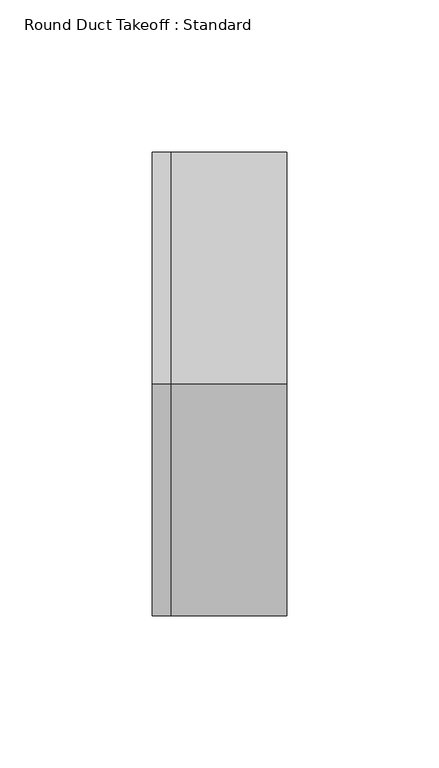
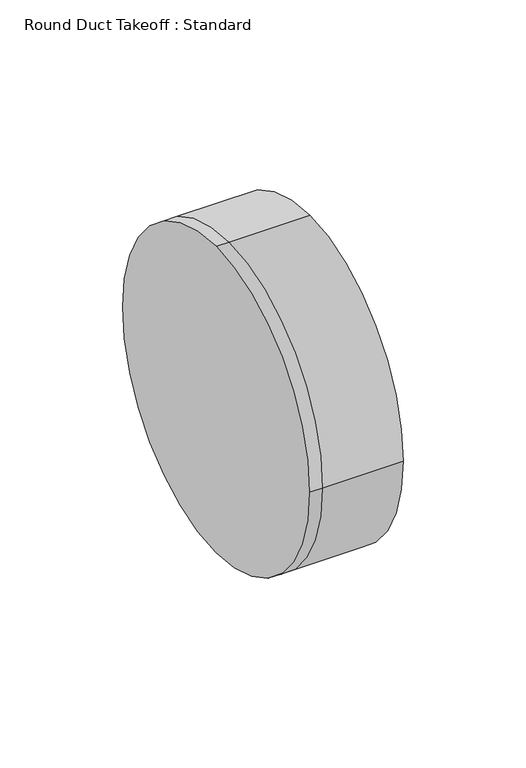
"""IFC4 building model written with IfcOpenShell, lengths in millimetres: duct fitting geometry, Round Duct Takeoff : Standard."""

from ifc_helpers import new_model, si_unit, frame, origin, place, context, project, spatial, circle_curve, source, transform, mapped, element, save
from ifc_brep_helpers import plane_surface, cylinder_surface, advanced_brep


def round_duct_takeoff_standard_ec3f8b96(model_context):
    return source(origin(), model_context, "Body", "AdvancedBrep", [
        advanced_brep(
        [(-6.096, 0.0, 76.2), (-6.096, 76.2, 0.0), (-6.096, 0.0, -76.2), (-6.096, -76.2, 0.0), (0.0, 0.0, 76.2), (0.0, 76.2, 0.0), (0.0, 0.0, -76.2), (0.0, -76.2, 0.0), (38.1, 0.0, 76.2), (38.1, -76.2, 0.0), (38.1, 0.0, -76.2), (38.1, 76.2, 0.0)],
        [
            (0, 1, circle_curve(frame((-6.096, 0.0, 0.0), z_axis=(-1.0, 0.0, 0.0), x_axis=(0.0, 1.0, 0.0)), 76.2)),
            (1, 2, circle_curve(frame((-6.096, 0.0, 0.0), z_axis=(-1.0, 0.0, 0.0), x_axis=(0.0, 1.0, 0.0)), 76.2)),
            (2, 3, circle_curve(frame((-6.096, 0.0, 0.0), z_axis=(-1.0, 0.0, 0.0), x_axis=(0.0, 1.0, 0.0)), 76.2)),
            (3, 0, circle_curve(frame((-6.096, 0.0, 0.0), z_axis=(-1.0, 0.0, 0.0), x_axis=(0.0, 1.0, 0.0)), 76.2)),
            (0, 4),
            (4, 5, circle_curve(frame((0.0, 0.0, 0.0), z_axis=(-1.0, 0.0, 0.0), x_axis=(0.0, 1.0, 0.0)), 76.2)),
            (5, 1),
            (5, 6, circle_curve(frame((0.0, 0.0, 0.0), z_axis=(-1.0, 0.0, 0.0), x_axis=(0.0, 1.0, 0.0)), 76.2)),
            (6, 2),
            (6, 7, circle_curve(frame((0.0, 0.0, 0.0), z_axis=(-1.0, 0.0, 0.0), x_axis=(0.0, 1.0, 0.0)), 76.2)),
            (7, 3),
            (7, 4, circle_curve(frame((0.0, 0.0, 0.0), z_axis=(-1.0, 0.0, 0.0), x_axis=(0.0, 1.0, 0.0)), 76.2)),
            (8, 9, circle_curve(frame((38.1, 0.0, 0.0), z_axis=(1.0, 0.0, 0.0), x_axis=(0.0, 1.0, 0.0)), 76.2)),
            (9, 10, circle_curve(frame((38.1, 0.0, 0.0), z_axis=(1.0, 0.0, 0.0), x_axis=(0.0, 1.0, 0.0)), 76.2)),
            (10, 11, circle_curve(frame((38.1, 0.0, 0.0), z_axis=(1.0, 0.0, 0.0), x_axis=(0.0, 1.0, 0.0)), 76.2)),
            (11, 8, circle_curve(frame((38.1, 0.0, 0.0), z_axis=(1.0, 0.0, 0.0), x_axis=(0.0, 1.0, 0.0)), 76.2)),
            (11, 5),
            (4, 8),
            (10, 6),
            (9, 7),
        ],
        [
            plane_surface(frame((-6.096, 0.0, 0.0), z_axis=(-1.0, 0.0, 0.0), x_axis=(0.0, 0.0, 1.0))),
            cylinder_surface(frame((-6.096, 0.0, 0.0), z_axis=(-1.0, 0.0, 0.0), x_axis=(0.0, 1.0, 0.0)), 76.2),
            plane_surface(frame((38.1, 0.0, 0.0), z_axis=(1.0, 0.0, 0.0), x_axis=(0.0, 0.0, 1.0))),
            cylinder_surface(frame((0.0, 0.0, 0.0), z_axis=(-1.0, 0.0, 0.0), x_axis=(0.0, 1.0, 0.0)), 76.2),
        ],
        [
            (0, [[1, 2, 3, 4]]),
            (1, [[-1, 5, 6, 7]]),
            (1, [[-2, -7, 8, 9]]),
            (1, [[-3, -9, 10, 11]]),
            (1, [[-4, -11, 12, -5]]),
            (2, [[13, 14, 15, 16]]),
            (3, [[-16, 17, -6, 18]]),
            (3, [[-15, 19, -8, -17]]),
            (3, [[-14, 20, -10, -19]]),
            (3, [[-13, -18, -12, -20]]),
        ],
    ),
        advanced_brep(
        [(38.1, 0.0, 76.2), (38.1, -76.2, 0.0), (38.1, 0.0, -76.2), (38.1, 76.2, 0.0), (0.0, 76.2, 0.0), (0.0, 0.0, 76.2), (0.0, 0.0, -76.2), (0.0, -76.2, 0.0), (-6.096, 0.0, 76.2), (-6.096, 76.2, 0.0), (-6.096, 0.0, -76.2), (-6.096, -76.2, 0.0)],
        [
            (0, 1, circle_curve(frame((38.1, 0.0, 0.0), z_axis=(1.0, 0.0, 0.0), x_axis=(0.0, 1.0, 0.0)), 76.2)),
            (1, 2, circle_curve(frame((38.1, 0.0, 0.0), z_axis=(1.0, 0.0, 0.0), x_axis=(0.0, 1.0, 0.0)), 76.2)),
            (2, 3, circle_curve(frame((38.1, 0.0, 0.0), z_axis=(1.0, 0.0, 0.0), x_axis=(0.0, 1.0, 0.0)), 76.2)),
            (3, 0, circle_curve(frame((38.1, 0.0, 0.0), z_axis=(1.0, 0.0, 0.0), x_axis=(0.0, 1.0, 0.0)), 76.2)),
            (3, 4),
            (4, 5, circle_curve(frame((0.0, 0.0, 0.0), z_axis=(1.0, 0.0, 0.0), x_axis=(0.0, 1.0, 0.0)), 76.2)),
            (5, 0),
            (2, 6),
            (6, 4, circle_curve(frame((0.0, 0.0, 0.0), z_axis=(1.0, 0.0, 0.0), x_axis=(0.0, 1.0, 0.0)), 76.2)),
            (1, 7),
            (7, 6, circle_curve(frame((0.0, 0.0, 0.0), z_axis=(1.0, 0.0, 0.0), x_axis=(0.0, 1.0, 0.0)), 76.2)),
            (5, 7, circle_curve(frame((0.0, 0.0, 0.0), z_axis=(1.0, 0.0, 0.0), x_axis=(0.0, 1.0, 0.0)), 76.2)),
            (8, 9, circle_curve(frame((-6.096, 0.0, 0.0), z_axis=(-1.0, 0.0, 0.0), x_axis=(0.0, 1.0, 0.0)), 76.2)),
            (9, 10, circle_curve(frame((-6.096, 0.0, 0.0), z_axis=(-1.0, 0.0, 0.0), x_axis=(0.0, 1.0, 0.0)), 76.2)),
            (10, 11, circle_curve(frame((-6.096, 0.0, 0.0), z_axis=(-1.0, 0.0, 0.0), x_axis=(0.0, 1.0, 0.0)), 76.2)),
            (11, 8, circle_curve(frame((-6.096, 0.0, 0.0), z_axis=(-1.0, 0.0, 0.0), x_axis=(0.0, 1.0, 0.0)), 76.2)),
            (8, 5),
            (4, 9),
            (6, 10),
            (7, 11),
        ],
        [
            plane_surface(frame((38.1, 0.0, 0.0), z_axis=(1.0, 0.0, 0.0), x_axis=(0.0, 0.0, 1.0))),
            cylinder_surface(frame((0.0, 0.0, 0.0), z_axis=(-1.0, 0.0, 0.0), x_axis=(0.0, 1.0, 0.0)), 76.2),
            plane_surface(frame((-6.096, 0.0, 0.0), z_axis=(-1.0, 0.0, 0.0), x_axis=(0.0, 0.0, 1.0))),
            cylinder_surface(frame((-6.096, 0.0, 0.0), z_axis=(-1.0, 0.0, 0.0), x_axis=(0.0, 1.0, 0.0)), 76.2),
        ],
        [
            (0, [[1, 2, 3, 4]]),
            (1, [[-4, 5, 6, 7]]),
            (1, [[-3, 8, 9, -5]]),
            (1, [[-2, 10, 11, -8]]),
            (1, [[-1, -7, 12, -10]]),
            (2, [[13, 14, 15, 16]]),
            (3, [[-13, 17, -6, 18]]),
            (3, [[-14, -18, -9, 19]]),
            (3, [[-15, -19, -11, 20]]),
            (3, [[-16, -20, -12, -17]]),
        ],
    ),
        advanced_brep(
        [(-6.096, 0.0, 76.2), (-6.096, 76.2, 0.0), (-6.096, 0.0, -76.2), (-6.096, -76.2, 0.0), (0.0, 0.0, 76.2), (0.0, 76.2, 0.0), (0.0, 0.0, -76.2), (0.0, -76.2, 0.0), (38.1, 0.0, 76.2), (38.1, -76.2, 0.0), (38.1, 0.0, -76.2), (38.1, 76.2, 0.0)],
        [
            (0, 1, circle_curve(frame((-6.096, 0.0, 0.0), z_axis=(-1.0, 0.0, 0.0), x_axis=(0.0, 1.0, 0.0)), 76.2)),
            (1, 2, circle_curve(frame((-6.096, 0.0, 0.0), z_axis=(-1.0, 0.0, 0.0), x_axis=(0.0, 1.0, 0.0)), 76.2)),
            (2, 3, circle_curve(frame((-6.096, 0.0, 0.0), z_axis=(-1.0, 0.0, 0.0), x_axis=(0.0, 1.0, 0.0)), 76.2)),
            (3, 0, circle_curve(frame((-6.096, 0.0, 0.0), z_axis=(-1.0, 0.0, 0.0), x_axis=(0.0, 1.0, 0.0)), 76.2)),
            (0, 4),
            (4, 5, circle_curve(frame((0.0, 0.0, 0.0), z_axis=(-1.0, 0.0, 0.0), x_axis=(0.0, 1.0, 0.0)), 76.2)),
            (5, 1),
            (5, 6, circle_curve(frame((0.0, 0.0, 0.0), z_axis=(-1.0, 0.0, 0.0), x_axis=(0.0, 1.0, 0.0)), 76.2)),
            (6, 2),
            (6, 7, circle_curve(frame((0.0, 0.0, 0.0), z_axis=(-1.0, 0.0, 0.0), x_axis=(0.0, 1.0, 0.0)), 76.2)),
            (7, 3),
            (7, 4, circle_curve(frame((0.0, 0.0, 0.0), z_axis=(-1.0, 0.0, 0.0), x_axis=(0.0, 1.0, 0.0)), 76.2)),
            (8, 9, circle_curve(frame((38.1, 0.0, 0.0), z_axis=(1.0, 0.0, 0.0), x_axis=(0.0, 1.0, 0.0)), 76.2)),
            (9, 10, circle_curve(frame((38.1, 0.0, 0.0), z_axis=(1.0, 0.0, 0.0), x_axis=(0.0, 1.0, 0.0)), 76.2)),
            (10, 11, circle_curve(frame((38.1, 0.0, 0.0), z_axis=(1.0, 0.0, 0.0), x_axis=(0.0, 1.0, 0.0)), 76.2)),
            (11, 8, circle_curve(frame((38.1, 0.0, 0.0), z_axis=(1.0, 0.0, 0.0), x_axis=(0.0, 1.0, 0.0)), 76.2)),
            (11, 5),
            (4, 8),
            (10, 6),
            (9, 7),
        ],
        [
            plane_surface(frame((-6.096, 0.0, 0.0), z_axis=(-1.0, 0.0, 0.0), x_axis=(0.0, 0.0, 1.0))),
            cylinder_surface(frame((-6.096, 0.0, 0.0), z_axis=(-1.0, 0.0, 0.0), x_axis=(0.0, 1.0, 0.0)), 76.2),
            plane_surface(frame((38.1, 0.0, 0.0), z_axis=(1.0, 0.0, 0.0), x_axis=(0.0, 0.0, 1.0))),
            cylinder_surface(frame((0.0, 0.0, 0.0), z_axis=(-1.0, 0.0, 0.0), x_axis=(0.0, 1.0, 0.0)), 76.2),
        ],
        [
            (0, [[1, 2, 3, 4]]),
            (1, [[-1, 5, 6, 7]]),
            (1, [[-2, -7, 8, 9]]),
            (1, [[-3, -9, 10, 11]]),
            (1, [[-4, -11, 12, -5]]),
            (2, [[13, 14, 15, 16]]),
            (3, [[-16, 17, -6, 18]]),
            (3, [[-15, 19, -8, -17]]),
            (3, [[-14, 20, -10, -19]]),
            (3, [[-13, -18, -12, -20]]),
        ],
    ),
    ])


if __name__ == "__main__":
    model = new_model("IFC4")
    model_context = context("Model", 3, world=origin())
    ifc_project = project(units=[si_unit("LENGTHUNIT", "METRE", prefix="MILLI")], contexts=[model_context])
    site = spatial("IfcSite", under=ifc_project)
    building = spatial("IfcBuilding", under=site)
    placement = place(None, origin())
    round_duct_takeoff_standard_shape = round_duct_takeoff_standard_ec3f8b96(model_context)
    element("IfcDuctFitting", 1, ObjectType="Round Duct Takeoff : Standard", at=placement, inside=building, context=model_context, shape_type="MappedRepresentation", body=[
        mapped(round_duct_takeoff_standard_shape, transform((0.0, 0.0, 0.0), x_axis=(1.0, 0.0, 0.0), y_axis=(0.0, 1.0, 0.0), z_axis=(0.0, 0.0, 1.0))),
    ])
    save(model, "model.ifc")
